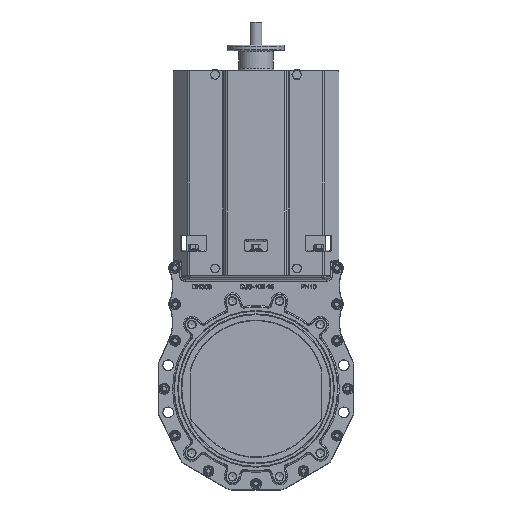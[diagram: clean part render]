
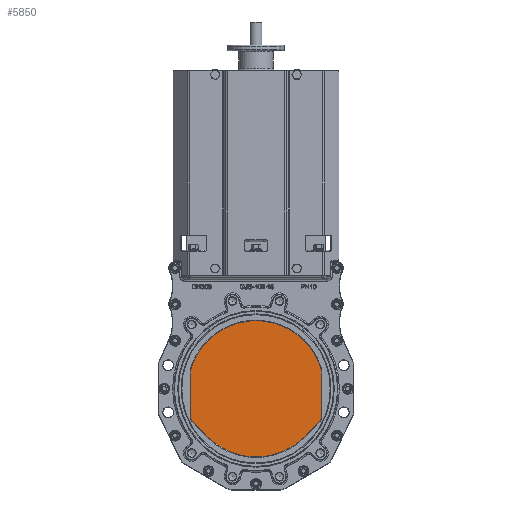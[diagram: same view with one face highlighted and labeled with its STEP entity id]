
A CAD part, top view. The second image highlights one B-rep face of the part: STEP entity #5850.
In plain terms, the highlighted planar face has unit normal (0, 0, 1).
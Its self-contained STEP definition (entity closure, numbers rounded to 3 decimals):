
#5850=ADVANCED_FACE('',(#9372),#7733,.T.);
#7733=PLANE('',#44143);
#9372=FACE_OUTER_BOUND('',#11744,.T.);
#11744=EDGE_LOOP('',(#21303,#21304,#21305,#21306,#21307,#21308,#21309,#21310,
#21311,#21312));
#14239=CIRCLE('',#43187,10.);
#14240=CIRCLE('',#43189,150.);
#14241=CIRCLE('',#43191,10.);
#14243=CIRCLE('',#43195,10.);
#14245=CIRCLE('',#43199,150.);
#14247=CIRCLE('',#43203,10.);
#21303=ORIENTED_EDGE('',*,*,#32805,.F.);
#21304=ORIENTED_EDGE('',*,*,#32808,.F.);
#21305=ORIENTED_EDGE('',*,*,#32810,.F.);
#21306=ORIENTED_EDGE('',*,*,#32813,.F.);
#21307=ORIENTED_EDGE('',*,*,#32816,.F.);
#21308=ORIENTED_EDGE('',*,*,#32819,.F.);
#21309=ORIENTED_EDGE('',*,*,#32822,.F.);
#21310=ORIENTED_EDGE('',*,*,#32825,.F.);
#21311=ORIENTED_EDGE('',*,*,#32828,.F.);
#21312=ORIENTED_EDGE('',*,*,#32830,.F.);
#28709=VERTEX_POINT('',#62256);
#28710=VERTEX_POINT('',#62258);
#28711=VERTEX_POINT('',#62262);
#28713=VERTEX_POINT('',#62267);
#28714=VERTEX_POINT('',#62272);
#28717=VERTEX_POINT('',#62279);
#28719=VERTEX_POINT('',#62285);
#28721=VERTEX_POINT('',#62291);
#28722=VERTEX_POINT('',#62296);
#28725=VERTEX_POINT('',#62303);
#32805=EDGE_CURVE('',#28709,#28710,#14239,.T.);
#32808=EDGE_CURVE('',#28711,#28709,#14240,.T.);
#32810=EDGE_CURVE('',#28713,#28711,#14241,.T.);
#32813=EDGE_CURVE('',#28714,#28713,#37930,.T.);
#32816=EDGE_CURVE('',#28717,#28714,#14243,.T.);
#32819=EDGE_CURVE('',#28719,#28717,#37934,.T.);
#32822=EDGE_CURVE('',#28721,#28719,#14245,.T.);
#32825=EDGE_CURVE('',#28722,#28721,#37938,.T.);
#32828=EDGE_CURVE('',#28725,#28722,#14247,.T.);
#32830=EDGE_CURVE('',#28710,#28725,#37941,.T.);
#37930=LINE('',#62274,#40412);
#37934=LINE('',#62286,#40416);
#37938=LINE('',#62298,#40420);
#37941=LINE('',#62307,#40423);
#40412=VECTOR('',#48966,1.);
#40416=VECTOR('',#48978,1.);
#40420=VECTOR('',#48990,1.);
#40423=VECTOR('',#49001,1.);
#43187=AXIS2_PLACEMENT_3D('',#62257,#48948,#48949);
#43189=AXIS2_PLACEMENT_3D('',#62263,#48954,#48955);
#43191=AXIS2_PLACEMENT_3D('',#62268,#48959,#48960);
#43195=AXIS2_PLACEMENT_3D('',#62280,#48971,#48972);
#43199=AXIS2_PLACEMENT_3D('',#62292,#48983,#48984);
#43203=AXIS2_PLACEMENT_3D('',#62304,#48995,#48996);
#44143=AXIS2_PLACEMENT_3D('',#68830,#51720,#51721);
#48948=DIRECTION('',(0.,0.,-1.));
#48949=DIRECTION('',(1.,0.,0.));
#48954=DIRECTION('',(0.,0.,-1.));
#48955=DIRECTION('',(1.,0.,0.));
#48959=DIRECTION('',(0.,0.,-1.));
#48960=DIRECTION('',(1.,0.,0.));
#48966=DIRECTION('',(0.,1.,0.));
#48971=DIRECTION('',(0.,0.,-1.));
#48972=DIRECTION('',(1.,0.,0.));
#48978=DIRECTION('',(-0.707,0.707,0.));
#48983=DIRECTION('',(0.,0.,-1.));
#48984=DIRECTION('',(1.,0.,0.));
#48990=DIRECTION('',(-0.707,-0.707,0.));
#48995=DIRECTION('',(0.,0.,-1.));
#48996=DIRECTION('',(1.,0.,0.));
#49001=DIRECTION('',(0.,-1.,0.));
#51720=DIRECTION('',(0.,0.,1.));
#51721=DIRECTION('',(1.,0.,0.));
#62256=CARTESIAN_POINT('',(142.5,46.837,6.));
#62257=CARTESIAN_POINT('',(133.,43.715,6.));
#62258=CARTESIAN_POINT('',(143.,43.715,6.));
#62262=CARTESIAN_POINT('',(-142.5,46.837,6.));
#62263=CARTESIAN_POINT('',(0.,0.,6.));
#62267=CARTESIAN_POINT('',(-143.,43.715,6.));
#62268=CARTESIAN_POINT('',(-133.,43.715,6.));
#62272=CARTESIAN_POINT('',(-143.,-64.99,6.));
#62274=CARTESIAN_POINT('',(-143.,45.288,6.));
#62279=CARTESIAN_POINT('',(-140.071,-72.061,6.));
#62280=CARTESIAN_POINT('',(-133.,-64.99,6.));
#62285=CARTESIAN_POINT('',(-106.066,-106.066,6.));
#62286=CARTESIAN_POINT('',(-143.,-69.132,6.));
#62291=CARTESIAN_POINT('',(106.066,-106.066,6.));
#62292=CARTESIAN_POINT('',(0.,0.,6.));
#62296=CARTESIAN_POINT('',(140.071,-72.061,6.));
#62298=CARTESIAN_POINT('',(106.066,-106.066,6.));
#62303=CARTESIAN_POINT('',(143.,-64.99,6.));
#62304=CARTESIAN_POINT('',(133.,-64.99,6.));
#62307=CARTESIAN_POINT('',(143.,-69.132,6.));
#68830=CARTESIAN_POINT('',(0.,131.073,6.));
